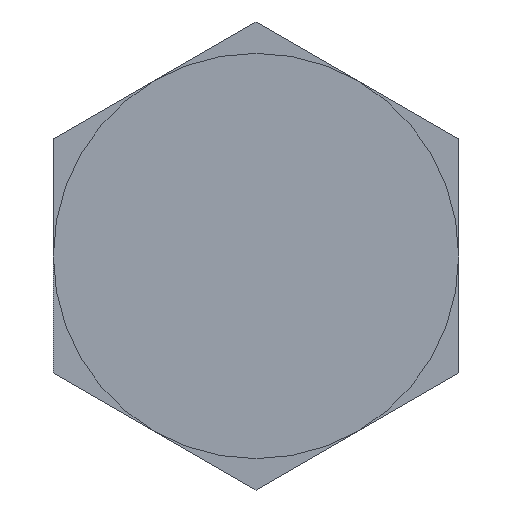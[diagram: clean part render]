
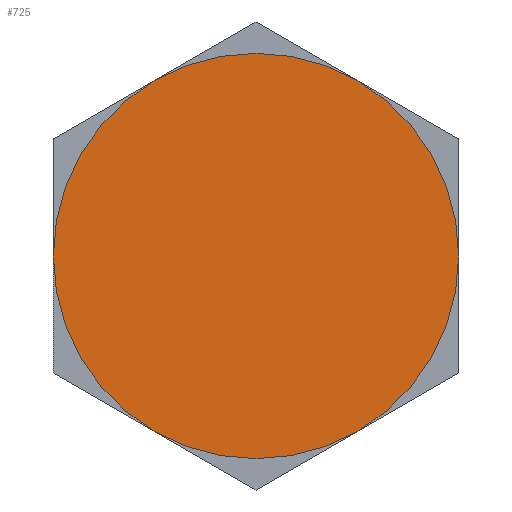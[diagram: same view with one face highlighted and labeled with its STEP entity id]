
A CAD part, left-side view. The second image highlights one B-rep face of the part: STEP entity #725.
In plain terms, the highlighted planar face has unit normal (-1, 0, 0).
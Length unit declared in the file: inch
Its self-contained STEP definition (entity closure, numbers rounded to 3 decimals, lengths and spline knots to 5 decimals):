
#44 = ORIENTED_EDGE ( 'NONE', *, *, #425, .F. ) ;
#95 = ORIENTED_EDGE ( 'NONE', *, *, #435, .F. ) ;
#97 = EDGE_LOOP ( 'NONE', ( #95, #44 ) ) ;
#166 = VERTEX_POINT ( 'NONE', #200 ) ;
#174 = VERTEX_POINT ( 'NONE', #585 ) ;
#200 = CARTESIAN_POINT ( 'NONE',  ( -4.786, 0., 0.625 ) ) ;
#241 = PLANE ( 'NONE',  #363 ) ;
#250 = CARTESIAN_POINT ( 'NONE',  ( -4.786, 0.625, 0. ) ) ;
#251 = DIRECTION ( 'NONE',  ( -1., 0., 0. ) ) ;
#252 = DIRECTION ( 'NONE',  ( 0., 0., 1. ) ) ;
#303 = CARTESIAN_POINT ( 'NONE',  ( -4.786, 0., 0. ) ) ;
#304 = DIRECTION ( 'NONE',  ( 1., 0., 0. ) ) ;
#305 = DIRECTION ( 'NONE',  ( 0., 0., -1. ) ) ;
#363 = AXIS2_PLACEMENT_3D ( 'NONE', #250, #251, #252 ) ;
#387 = AXIS2_PLACEMENT_3D ( 'NONE', #683, #684, #685 ) ;
#388 = AXIS2_PLACEMENT_3D ( 'NONE', #303, #304, #305 ) ;
#425 = EDGE_CURVE ( 'NONE', #166, #174, #533, .T. ) ;
#435 = EDGE_CURVE ( 'NONE', #174, #166, #525, .T. ) ;
#525 = CIRCLE ( 'NONE', #387, 0.625 ) ;
#532 = FACE_OUTER_BOUND ( 'NONE', #97, .T. ) ;
#533 = CIRCLE ( 'NONE', #388, 0.625 ) ;
#585 = CARTESIAN_POINT ( 'NONE',  ( -4.786, 0., -0.625 ) ) ;
#683 = CARTESIAN_POINT ( 'NONE',  ( -4.786, 0., 0. ) ) ;
#684 = DIRECTION ( 'NONE',  ( 1., 0., 0. ) ) ;
#685 = DIRECTION ( 'NONE',  ( 0., 0., -1. ) ) ;
#725 = ADVANCED_FACE ( 'NONE', ( #532 ), #241, .T. ) ;
